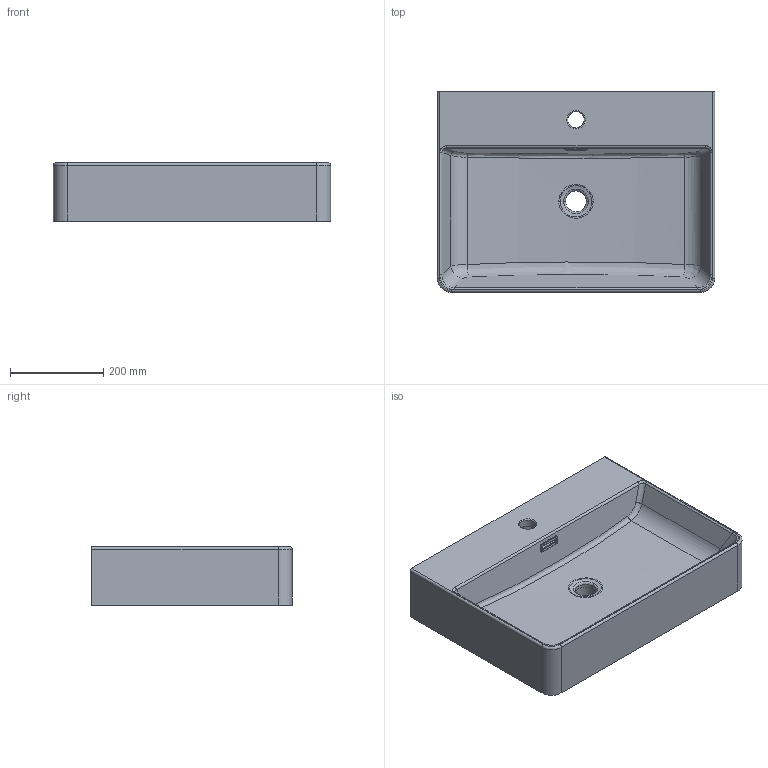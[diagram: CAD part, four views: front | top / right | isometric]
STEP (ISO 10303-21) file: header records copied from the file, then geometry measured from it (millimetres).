
FILE_DESCRIPTION(/* description */ (''),/* implementation_level */ '2;1');
FILE_NAME(/* name */ 'c:\worker\convert-fusion-r09\tmp\job-1\5\output\files\1f63453a-e6db-44eb-b885-47a7c3934695\758c99c9-9841-4540-9b49-ccacc333e877.stp',/* time_stamp */ '2020-12-07T09:45:45+00:00',/* author */ (''),/* organization */ (''),/* preprocessor_version */ 'ST-DEVELOPER v18.1',/* originating_system */ 'Autodesk Translation Framework v9.7.1.1290',/* authorisation */ '');
FILE_SCHEMA (('AUTOMOTIVE_DESIGN { 1 0 10303 214 3 1 1 }'));
Length unit declared in the file: millimetre
Products named in the file (1): !GARLAND600BP
Bounding box: 595 x 430 x 125 mm (x, y, z)
Volume: 13040567.8 mm3; surface area: 970588.6 mm2
Topology: 2 solids, 2 shells, 246 faces, 561 edges, 322 vertices
Faces by surface type: cylinder 99, bspline 78, plane 46, torus 14, sphere 8, cone 1
Full cylindrical faces by diameter (mm): 35 x1
Entity records: 17287 total; most frequent: CARTESIAN_POINT 12190, ORIENTED_EDGE 1122, DIRECTION 963, EDGE_CURVE 561, AXIS2_PLACEMENT_3D 374, VERTEX_POINT 322, EDGE_LOOP 259, FACE_OUTER_BOUND 246
